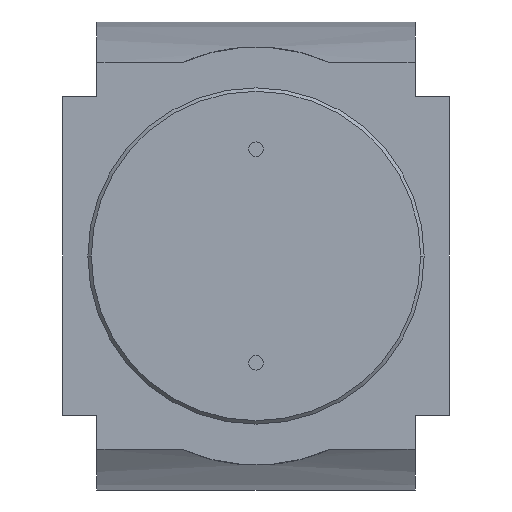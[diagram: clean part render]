
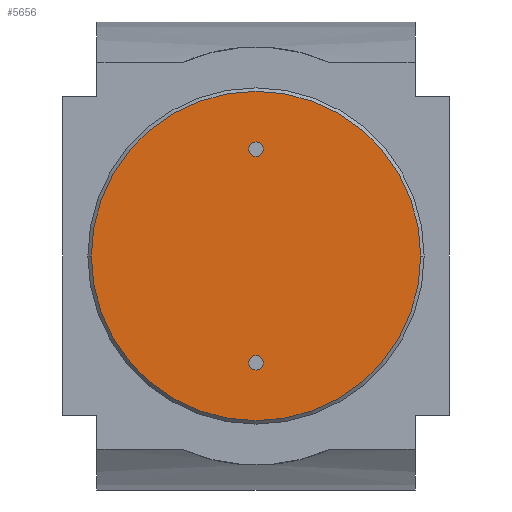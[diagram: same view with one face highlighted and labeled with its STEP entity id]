
A CAD part, front view. The second image highlights one B-rep face of the part: STEP entity #5656.
In plain terms, the highlighted planar face has unit normal (0, -1, 0).
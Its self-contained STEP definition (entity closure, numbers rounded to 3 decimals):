
#2372=CARTESIAN_POINT('',(0.,-54.,0.));
#2373=DIRECTION('',(0.,-1.,0.));
#2374=DIRECTION('',(-1.,0.,0.));
#2375=AXIS2_PLACEMENT_3D('',#2372,#2373,#2374);
#2380=CARTESIAN_POINT('',(0.,-54.,0.));
#2381=DIRECTION('',(0.,1.,0.));
#2382=DIRECTION('',(-1.,0.,0.));
#2383=AXIS2_PLACEMENT_3D('',#2380,#2381,#2382);
#2388=CARTESIAN_POINT('',(0.,-54.,23.5));
#2389=DIRECTION('',(0.,-1.,0.));
#2390=DIRECTION('',(0.,0.,-1.));
#2391=AXIS2_PLACEMENT_3D('',#2388,#2389,#2390);
#2396=CARTESIAN_POINT('',(0.,-54.,23.5));
#2397=DIRECTION('',(0.,-1.,0.));
#2398=DIRECTION('',(0.,0.,1.));
#2399=AXIS2_PLACEMENT_3D('',#2396,#2397,#2398);
#2404=CARTESIAN_POINT('',(0.,-54.,-23.5));
#2405=DIRECTION('',(0.,-1.,0.));
#2406=DIRECTION('',(0.,0.,-1.));
#2407=AXIS2_PLACEMENT_3D('',#2404,#2405,#2406);
#2412=CARTESIAN_POINT('',(0.,-54.,-23.5));
#2413=DIRECTION('',(0.,-1.,0.));
#2414=DIRECTION('',(0.,0.,1.));
#2415=AXIS2_PLACEMENT_3D('',#2412,#2413,#2414);
#2739=CARTESIAN_POINT('',(0.,-54.,21.9));
#2740=CARTESIAN_POINT('',(0.,-54.,25.1));
#2741=VERTEX_POINT('',#2739);
#2742=VERTEX_POINT('',#2740);
#2743=CARTESIAN_POINT('',(0.,-54.,-25.1));
#2744=CARTESIAN_POINT('',(0.,-54.,-21.9));
#2745=VERTEX_POINT('',#2743);
#2746=VERTEX_POINT('',#2744);
#2891=CARTESIAN_POINT('',(-36.25,-54.,0.));
#2892=VERTEX_POINT('',#2891);
#2893=CARTESIAN_POINT('',(36.25,-54.,0.));
#2894=VERTEX_POINT('',#2893);
#5635=CARTESIAN_POINT('',(0.,-54.,0.));
#5636=DIRECTION('',(0.,1.,0.));
#5637=DIRECTION('',(1.,0.,0.));
#5638=AXIS2_PLACEMENT_3D('',#5635,#5636,#5637);
#5639=PLANE('1320',#5638);
#5640=ORIENTED_EDGE('8141',*,*,#5614,.F.);
#5641=ORIENTED_EDGE('8131',*,*,#5630,.T.);
#5642=EDGE_LOOP('1320',(#5640,#5641));
#5643=FACE_OUTER_BOUND('1320',#5642,.F.);
#5645=ORIENTED_EDGE('4079',*,*,#5644,.T.);
#5647=ORIENTED_EDGE('4080',*,*,#5646,.T.);
#5648=EDGE_LOOP('1320',(#5645,#5647));
#5649=FACE_BOUND('1320',#5648,.F.);
#5651=ORIENTED_EDGE('4081',*,*,#5650,.T.);
#5653=ORIENTED_EDGE('4082',*,*,#5652,.T.);
#5654=EDGE_LOOP('1320',(#5651,#5653));
#5655=FACE_BOUND('1320',#5654,.F.);
#5656=ADVANCED_FACE('1320',(#5643,#5649,#5655),#5639,.F.);
#2376=CIRCLE('8141',#2375,36.25);
#2384=CIRCLE('8131',#2383,36.25);
#2392=CIRCLE('4079',#2391,1.6);
#2400=CIRCLE('4080',#2399,1.6);
#2408=CIRCLE('4081',#2407,1.6);
#2416=CIRCLE('4082',#2415,1.6);
#5614=EDGE_CURVE('8141',#2892,#2894,#2376,.T.);
#5630=EDGE_CURVE('8131',#2892,#2894,#2384,.T.);
#5644=EDGE_CURVE('4079',#2741,#2742,#2392,.T.);
#5646=EDGE_CURVE('4080',#2742,#2741,#2400,.T.);
#5650=EDGE_CURVE('4081',#2745,#2746,#2408,.T.);
#5652=EDGE_CURVE('4082',#2746,#2745,#2416,.T.);
